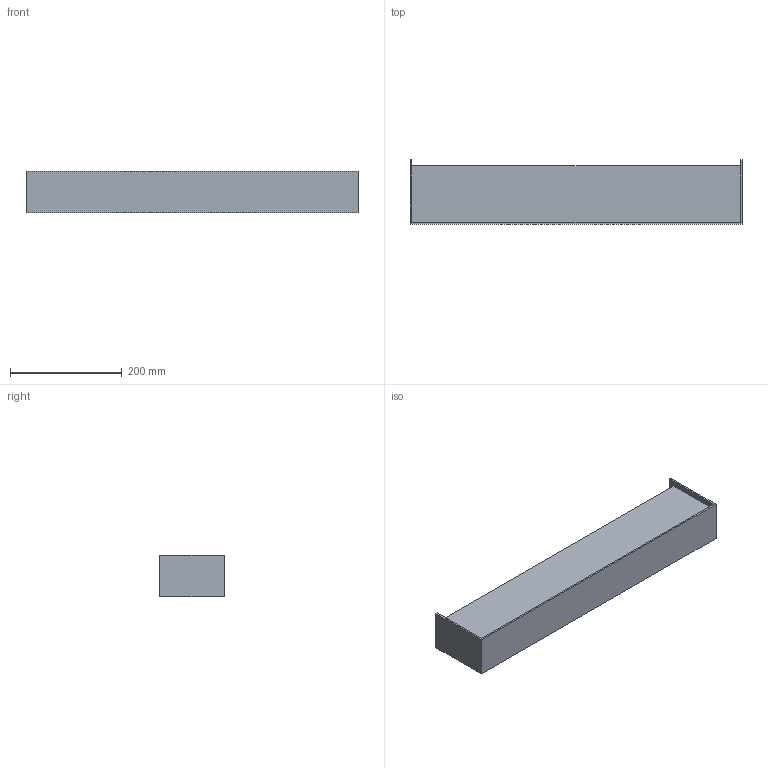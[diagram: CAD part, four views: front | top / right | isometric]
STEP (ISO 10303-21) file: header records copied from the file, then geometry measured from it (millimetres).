
FILE_DESCRIPTION (( 'STEP AP203' ), '1' );
FILE_NAME ('Kinkiet 595mm.STEP', '2020-07-12T21:22:20', ( '' ), ( '' ), 'SwSTEP 2.0', 'SolidWorks 2012', '' );
FILE_SCHEMA (( 'CONFIG_CONTROL_DESIGN' ));
Length unit declared in the file: millimetre
Products named in the file (1): Kinkiet 595mm
Bounding box: 595 x 115 x 75 mm (x, y, z)
Volume: 1083945.6 mm3; surface area: 434793.3 mm2
Topology: 1 solids, 1 shells, 168 faces, 447 edges, 286 vertices
Faces by surface type: plane 89, cylinder 75, bspline 4
Entity records: 5434 total; most frequent: CARTESIAN_POINT 1034, DIRECTION 911, ORIENTED_EDGE 894, EDGE_CURVE 447, AXIS2_PLACEMENT_3D 307, LINE 297, VECTOR 297, VERTEX_POINT 286
